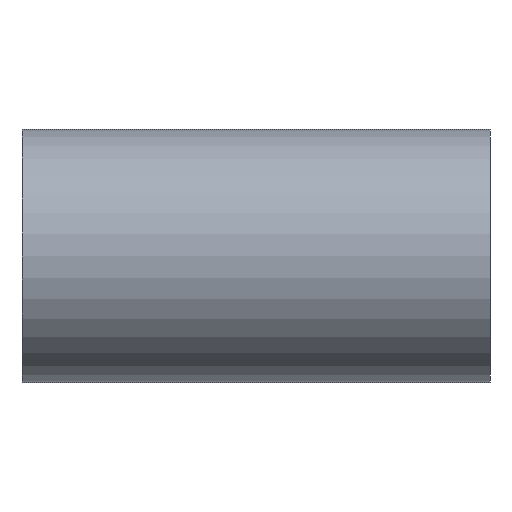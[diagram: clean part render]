
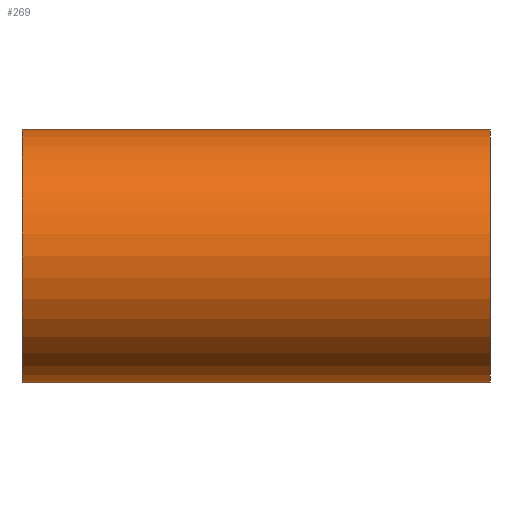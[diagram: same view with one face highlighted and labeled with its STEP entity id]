
A CAD part, left-side view. The second image highlights one B-rep face of the part: STEP entity #269.
In plain terms, the highlighted cylindrical face has radius 53 mm (diameter 106 mm), a full revolution.
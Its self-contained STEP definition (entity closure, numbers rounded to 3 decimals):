
#17=ELLIPSE('',#300,74.953,53.);
#18=ELLIPSE('',#301,74.953,53.);
#25=FACE_BOUND('',#92,.T.);
#26=FACE_BOUND('',#93,.T.);
#37=CYLINDRICAL_SURFACE('',#298,53.);
#66=FACE_OUTER_BOUND('',#91,.T.);
#91=EDGE_LOOP('',(#230));
#92=EDGE_LOOP('',(#231,#232));
#93=EDGE_LOOP('',(#233));
#116=CIRCLE('',#299,53.);
#117=CIRCLE('',#302,53.);
#150=VERTEX_POINT('',#5718);
#151=VERTEX_POINT('',#5720);
#152=VERTEX_POINT('',#5721);
#153=VERTEX_POINT('',#5724);
#182=EDGE_CURVE('',#150,#150,#116,.T.);
#183=EDGE_CURVE('',#151,#152,#17,.T.);
#184=EDGE_CURVE('',#152,#151,#18,.T.);
#185=EDGE_CURVE('',#153,#153,#117,.T.);
#230=ORIENTED_EDGE('',*,*,#182,.F.);
#231=ORIENTED_EDGE('',*,*,#183,.T.);
#232=ORIENTED_EDGE('',*,*,#184,.T.);
#233=ORIENTED_EDGE('',*,*,#185,.F.);
#269=ADVANCED_FACE('',(#66,#25,#26),#37,.T.);
#298=AXIS2_PLACEMENT_3D('',#5717,#356,#357);
#299=AXIS2_PLACEMENT_3D('',#5719,#358,#359);
#300=AXIS2_PLACEMENT_3D('',#5722,#360,#361);
#301=AXIS2_PLACEMENT_3D('',#5723,#362,#363);
#302=AXIS2_PLACEMENT_3D('',#5725,#364,#365);
#356=DIRECTION('center_axis',(0.,1.,0.));
#357=DIRECTION('ref_axis',(1.,0.,0.));
#358=DIRECTION('center_axis',(0.,-1.,0.));
#359=DIRECTION('ref_axis',(1.,0.,0.));
#360=DIRECTION('center_axis',(-0.707,-0.707,0.));
#361=DIRECTION('ref_axis',(0.707,-0.707,0.));
#362=DIRECTION('center_axis',(-0.707,0.707,0.));
#363=DIRECTION('ref_axis',(-0.707,-0.707,0.));
#364=DIRECTION('center_axis',(0.,1.,0.));
#365=DIRECTION('ref_axis',(1.,0.,0.));
#5717=CARTESIAN_POINT('Origin',(0.,0.,0.));
#5718=CARTESIAN_POINT('',(-53.,-98.,0.));
#5719=CARTESIAN_POINT('Origin',(0.,-98.,0.));
#5720=CARTESIAN_POINT('',(0.,0.,-53.));
#5721=CARTESIAN_POINT('',(0.,0.,53.));
#5722=CARTESIAN_POINT('Origin',(0.,0.,0.));
#5723=CARTESIAN_POINT('Origin',(0.,0.,0.));
#5724=CARTESIAN_POINT('',(-53.,98.,0.));
#5725=CARTESIAN_POINT('Origin',(0.,98.,0.));
